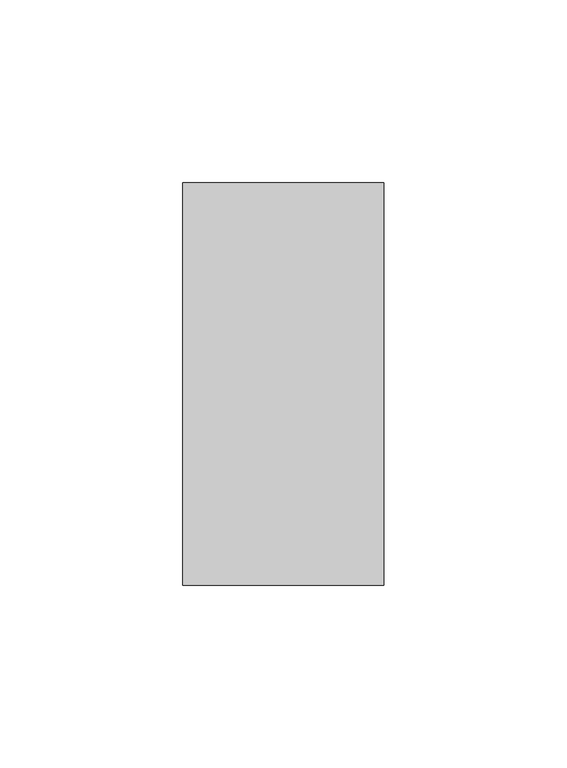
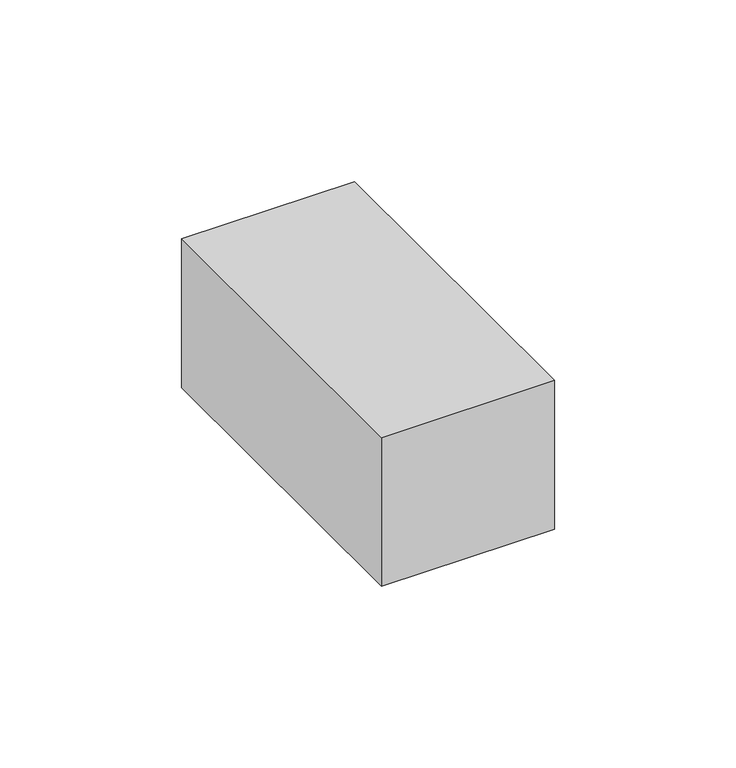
"""IFC4 building model written with IfcOpenShell, lengths in millimetres: proxy geometry, d&b SL-Series ArraySight Sender Unit : ArraySight Sender Unit."""

from ifc_helpers import new_model, si_unit, origin, origin_with_axes, place, context, project, spatial, polyline, outline, extrude, source, transform, mapped, element, save


def communication_devices_fb2c1ed3(model_context):
    return source(origin(), model_context, "Body", "SweptSolid", [
        extrude(outline(polyline([(27.5, 110.0), (27.5, 0.0), (-27.5, 0.0), (-27.5, 110.0), (27.5, 110.0)])), origin_with_axes(), (0.0, 0.0, 1.0), 50.0),
    ])


if __name__ == "__main__":
    model = new_model("IFC4")
    model_context = context("Model", 3, world=origin())
    ifc_project = project(units=[si_unit("LENGTHUNIT", "METRE", prefix="MILLI")], contexts=[model_context])
    site = spatial("IfcSite", under=ifc_project)
    building = spatial("IfcBuilding", under=site)
    placement = place(None, origin())
    communication_devices_shape = communication_devices_fb2c1ed3(model_context)
    element("IfcBuildingElementProxy", 1, Name="d&b SL-Series ArraySight Sender Unit : ArraySight Sender Unit", ObjectType="d&b SL-Series ArraySight Sender Unit : ArraySight Sender Unit", at=placement, inside=building, context=model_context, shape_type="MappedRepresentation", body=[
        mapped(communication_devices_shape, transform((0.0, 0.0, 0.0), x_axis=(1.0, 0.0, 0.0), y_axis=(0.0, 1.0, 0.0), z_axis=(0.0, 0.0, 1.0))),
    ])
    save(model, "model.ifc")
